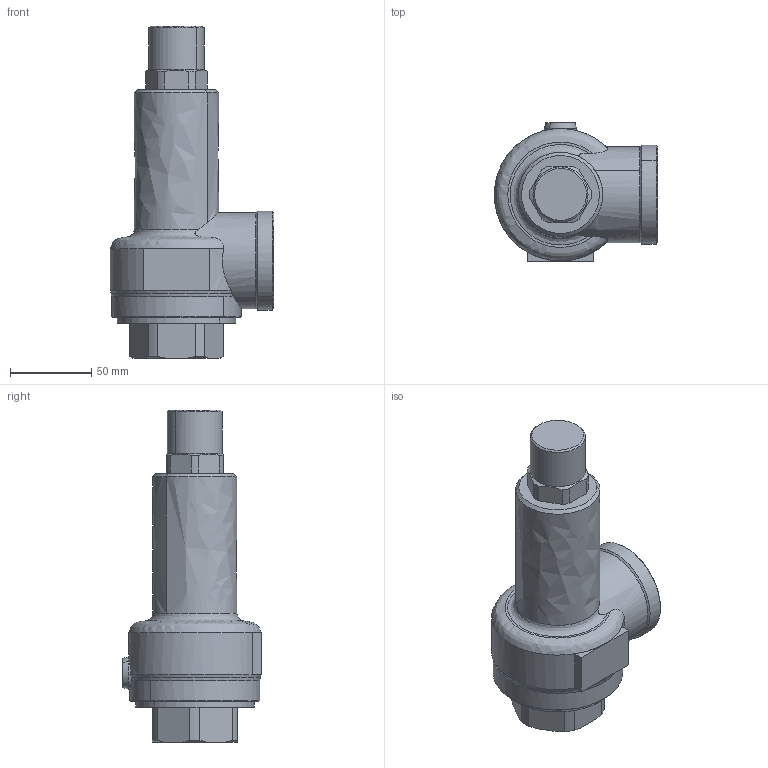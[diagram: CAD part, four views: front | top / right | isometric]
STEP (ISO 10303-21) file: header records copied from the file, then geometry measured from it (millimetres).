
FILE_DESCRIPTION((''),'2;1');
FILE_NAME('','2019-07-18T18:45:56',(''),(''),'','CADfix','');
FILE_SCHEMA(('AUTOMOTIVE_DESIGN { 1 0 10303 214 1 1 1 1 }'));
Length unit declared in the file: millimetre
Bounding box: 100.86 x 85.5 x 204.8 mm (x, y, z)
Volume: 545739.1 mm3; surface area: 59000.7 mm2
Topology: 1 solids, 1 shells, 87 faces, 321 edges, 243 vertices
Faces by surface type: bspline 87
Entity records: 5177 total; most frequent: CARTESIAN_POINT 3354, ORIENTED_EDGE 642, EDGE_CURVE 321, VERTEX_POINT 243, B_SPLINE_CURVE_WITH_KNOTS 206, EDGE_LOOP 94, QUASI_UNIFORM_CURVE 90, FACE_OUTER_BOUND 87
